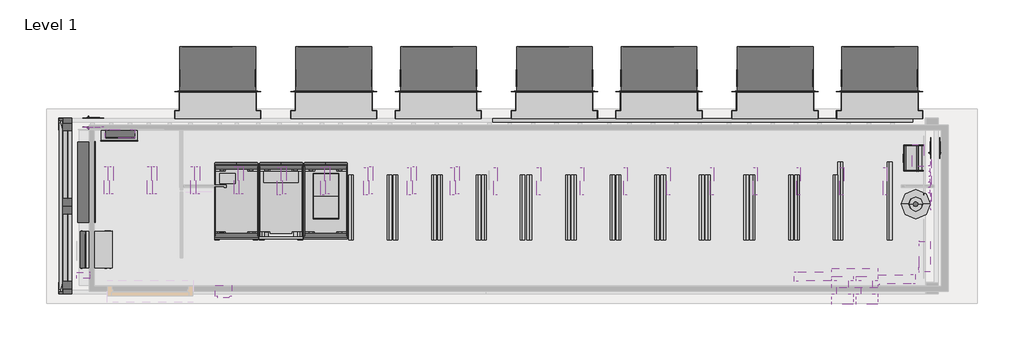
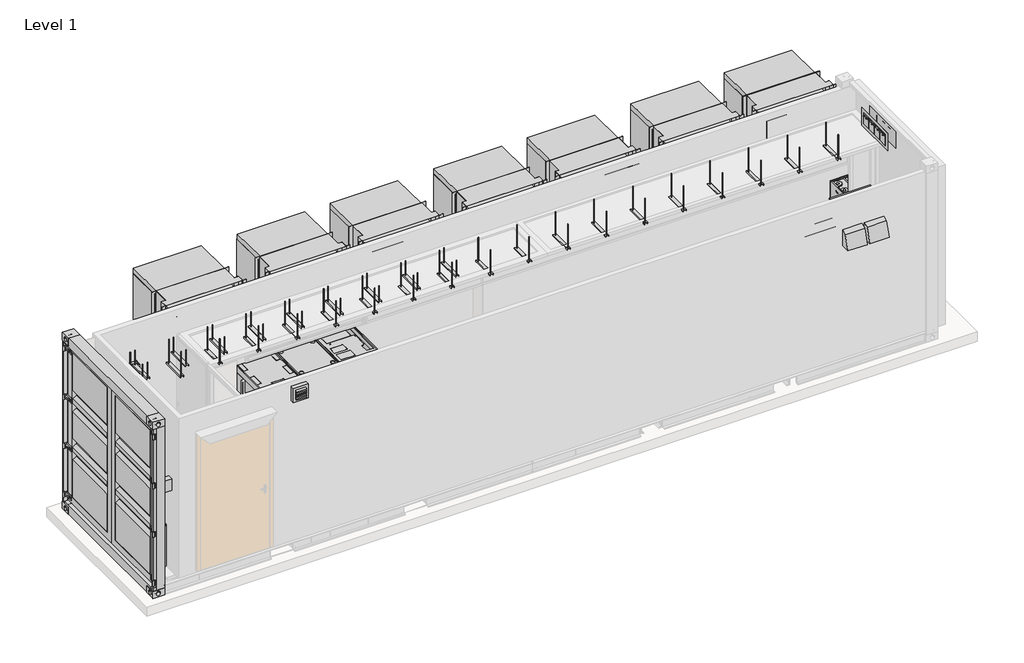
# One storey, part 2 of 2: 45 proxies, 28 cable carrier fittings, 1 alarm, 1 beam.
"""IFC4 building model written with IfcOpenShell, lengths in millimetres."""

from ifc_helpers import new_model, si_unit, frame, origin, place, context, project, spatial, circle_curve, transform, mapped, element, save
from ifc_brep_helpers import plane_surface, cylinder_surface, advanced_brep
from components import cylinder_1_cylinder_1_ec71c972, electrical_equipment_b056a7a1, electrical_equipment_63daee8f, electrical_equipment_d7194751, mechanical_equipment_ff092b0d, electrical_equipment_6561f704, electrical_equipment_92dd933f, electrical_equipment_2ad6ca1a, electrical_equipment_7d681fff, electrical_equipment_a33bc82e, generic_models_3c25a827, generic_models_1ea03f89, mechanical_equipment_c87a87b9, proxy_120v_outlet_120v_outlet_43f5f55e, cp_100_control_panel_77914c75, climate_control_climate_control_e813e11c, climate_control2_climate_control2_4c8c6d90, e2m_access_control_panel_9290570a, fire_alarm_control_panel_67536681, generator_annunciator_panel_e31edde5, i_line_power_distribution_panel_board_enclosure_5f4e2905, rack_mount_base_rack_mount_base_61a671b6, rack_mount_base_750_rack_mount_base_750_28cbcc94, type_1_7145ab67, type_1_5fd10da7, type_1_44b7102c, hanger_cabletray_hanger_cabletray_434e3e47, hanger_cabletray_hanger_cabletray_68d978af

model = new_model("IFC4")

# Units and contexts
model_context = context("Model", 3, world=origin())
ifc_project = project(units=[si_unit("LENGTHUNIT", "METRE", prefix="MILLI")], contexts=[model_context])

# Site, building, storey
site = spatial("IfcSite", under=ifc_project)
building = spatial("IfcBuilding", under=site)
storey = spatial("IfcBuildingStorey", under=building, Name="Level 1", Elevation=0.0)

# Alarm
placement = place(None, origin())
cylinder_1_cylinder_1_shape = cylinder_1_cylinder_1_ec71c972(model_context)
element("IfcAlarm", 1, ObjectType="Cylinder-1 : Cylinder-1", at=placement, inside=storey, context=model_context, shape_type="MappedRepresentation", body=[
    mapped(cylinder_1_cylinder_1_shape, transform((7655.1260176, -1726.7565442, 424.0), x_axis=(1.0, 0.0, 0.0), y_axis=(0.0, 1.0, 0.0), z_axis=(0.0, 0.0, 1.0))),
])

# Beam
element("IfcBeam", 2, ObjectType="M_C-Channel_305x105 : C160x47", at=placement, inside=storey, context=model_context, shape_type="AdvancedBrep", body=[
    advanced_brep(
    [(1785.8997533, -585.7772175, 410.9999915), (1785.8997533, -538.7772175, 410.9999915), (1785.8997533, -551.4772175, 398.2999915), (1785.8997533, -580.7772175, 393.6593274), (1785.8997533, -580.7772175, 268.3406556), (1785.8997533, -551.4772175, 263.6999915), (1785.8997533, -538.7772175, 250.9999915), (1785.8997533, -585.7772175, 250.9999915), (7613.9103088, -585.7772175, 410.9999915), (7613.9103088, -585.7772175, 250.9999915), (7613.9103088, -538.7772175, 250.9999915), (7613.9103088, -551.4772175, 263.6999915), (7613.9103088, -580.7772175, 268.3406556), (7613.9103088, -580.7772175, 393.6593274), (7613.9103088, -551.4772175, 398.2999915), (7613.9103088, -538.7772175, 410.9999915), (5885.9375311, -580.7772175, 268.3406556), (5885.9375311, -580.7772175, 365.9999967), (5525.9103088, -580.7772175, 365.9999967), (5525.9103088, -580.7772175, 268.3406556), (3812.1141924, -580.7772175, 268.3406556), (3812.1141924, -580.7772175, 365.999994), (3445.9104822, -580.7772175, 365.999994), (3445.9104822, -580.7772175, 268.3406556), (3445.9104822, -551.4772175, 263.6999915), (5885.9375311, -551.4772175, 263.6999915), (3812.1141924, -551.4772175, 263.6999915), (5525.9103088, -551.4772175, 263.6999915), (3445.9104822, -538.7772175, 250.9999915), (5885.9375311, -538.7772175, 250.9999915), (3812.1141924, -538.7772175, 250.9999915), (5525.9103088, -538.7772175, 250.9999915), (3445.9104822, -585.7772175, 250.9999915), (5885.9375311, -585.7772175, 250.9999915), (3812.1141924, -585.7772175, 250.9999915), (5525.9103088, -585.7772175, 250.9999915), (3445.9104822, -585.7772175, 365.999994), (3812.1141924, -585.7772175, 365.999994), (5525.9103088, -585.7772175, 365.9999967), (5885.9375311, -585.7772175, 365.9999967)],
    [
        (0, 1),
        (1, 2, circle_curve(frame((1785.8997533, -551.4772175, 410.9999915), z_axis=(-1.0, 0.0, 0.0), x_axis=(0.0, 1.0, 0.0)), 12.7)),
        (2, 3),
        (3, 4),
        (4, 5),
        (5, 6, circle_curve(frame((1785.8997533, -551.4772175, 250.9999915), z_axis=(-1.0, 0.0, 0.0), x_axis=(0.0, 1.0, 0.0)), 12.7)),
        (6, 7),
        (7, 0),
        (8, 9),
        (9, 10),
        (10, 11, circle_curve(frame((7613.9103088, -551.4772175, 250.9999915), z_axis=(1.0, 0.0, 0.0), x_axis=(0.0, 1.0, 0.0)), 12.7)),
        (11, 12),
        (12, 13),
        (13, 14),
        (14, 15, circle_curve(frame((7613.9103088, -551.4772175, 410.9999915), z_axis=(1.0, 0.0, 0.0), x_axis=(0.0, 1.0, 0.0)), 12.7)),
        (15, 8),
        (0, 8),
        (15, 1),
        (14, 2),
        (13, 3),
        (12, 16),
        (16, 17),
        (17, 18),
        (18, 19),
        (19, 20),
        (20, 21),
        (21, 22),
        (22, 23),
        (23, 4),
        (23, 24),
        (24, 5),
        (11, 25),
        (25, 16),
        (26, 20),
        (19, 27),
        (27, 26),
        (24, 28, circle_curve(frame((3445.9104822, -551.4772175, 250.9999915), z_axis=(-1.0, 0.0, 0.0), x_axis=(0.0, 1.0, 0.0)), 12.7)),
        (28, 6),
        (10, 29),
        (29, 25, circle_curve(frame((5885.9375311, -551.4772175, 250.9999915), z_axis=(1.0, 0.0, 0.0), x_axis=(0.0, 1.0, 0.0)), 12.7)),
        (30, 26, circle_curve(frame((3812.1141924, -551.4772175, 250.9999915), z_axis=(1.0, 0.0, 0.0), x_axis=(0.0, 1.0, 0.0)), 12.7)),
        (27, 31, circle_curve(frame((5525.9103088, -551.4772175, 250.9999915), z_axis=(-1.0, 0.0, 0.0), x_axis=(0.0, 1.0, 0.0)), 12.7)),
        (31, 30),
        (28, 32),
        (32, 7),
        (9, 33),
        (33, 29),
        (34, 30),
        (31, 35),
        (35, 34),
        (32, 36),
        (36, 37),
        (37, 34),
        (35, 38),
        (38, 39),
        (39, 33),
        (36, 22),
        (21, 37),
        (38, 18),
        (17, 39),
    ],
    [
        plane_surface(frame((1785.8997533, -564.7772175, 330.9999915), z_axis=(-1.0, 0.0, 0.0), x_axis=(0.0, 0.0, 1.0))),
        plane_surface(frame((7613.9103088, -564.7772175, 330.9999915), z_axis=(1.0, 0.0, 0.0), x_axis=(0.0, 0.0, 1.0))),
        plane_surface(frame((1785.8997533, -585.7772175, 410.9999915), z_axis=(0.0, 0.0, 1.0), x_axis=(1.0, 0.0, 0.0))),
        cylinder_surface(frame((1785.8997533, -551.4772175, 410.9999915), z_axis=(-1.0, 0.0, 0.0), x_axis=(0.0, 1.0, 0.0)), 12.7),
        plane_surface(frame((1785.8997533, -551.4772175, 398.2999915), z_axis=(0.0, 0.15643446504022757, -0.9876883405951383), x_axis=(1.0, 0.0, 0.0))),
        plane_surface(frame((1785.8997533, -580.7772175, 393.6593274), z_axis=(0.0, 1.0, 0.0), x_axis=(1.0, 0.0, 0.0))),
        plane_surface(frame((1785.8997533, -580.7772175, 268.3406556), z_axis=(0.0, 0.1564344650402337, 0.9876883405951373), x_axis=(1.0, 0.0, 0.0))),
        cylinder_surface(frame((1785.8997533, -551.4772175, 250.9999915), z_axis=(-1.0, 0.0, 0.0), x_axis=(0.0, 1.0, 0.0)), 12.7),
        plane_surface(frame((1785.8997533, -538.7772175, 250.9999915), z_axis=(0.0, 0.0, -1.0), x_axis=(1.0, 0.0, 0.0))),
        plane_surface(frame((1785.8997533, -585.7772175, 250.9999915), z_axis=(0.0, -1.0, 0.0), x_axis=(1.0, 0.0, 0.0))),
        plane_surface(frame((3445.9104822, 16483.0727825, 365.999994), z_axis=(0.0, 0.0, -1.0), x_axis=(0.0, -1.0, 0.0))),
        plane_surface(frame((3812.1141924, 16483.0727825, 365.999994), z_axis=(-1.0, 0.0, 0.0), x_axis=(0.0, -1.0, 0.0))),
        plane_surface(frame((3445.9104822, 16483.0727825, 250.9999915), z_axis=(1.0, 0.0, 0.0), x_axis=(0.0, -1.0, 0.0))),
        plane_surface(frame((5525.9103088, 16483.0727825, 365.9999967), z_axis=(0.0, 0.0, -1.0), x_axis=(0.0, -1.0, 0.0))),
        plane_surface(frame((5885.9375311, 16483.0727825, 365.9999967), z_axis=(-1.0, 0.0, 0.0), x_axis=(0.0, -1.0, 0.0))),
        plane_surface(frame((5525.9103088, 16483.0727825, 250.9999915), z_axis=(1.0, 0.0, 0.0), x_axis=(0.0, -1.0, 0.0))),
    ],
    [
        (0, [[1, 2, 3, 4, 5, 6, 7, 8]]),
        (1, [[9, 10, 11, 12, 13, 14, 15, 16]]),
        (2, [[-1, 17, -16, 18]]),
        (3, [[-2, -18, -15, 19]]),
        (4, [[-3, -19, -14, 20]]),
        (5, [[-4, -20, -13, 21, 22, 23, 24, 25, 26, 27, 28, 29]]),
        (6, [[-5, -29, 30, 31]]),
        (6, [[-12, 32, 33, -21]]),
        (6, [[34, -25, 35, 36]]),
        (7, [[-6, -31, 37, 38]]),
        (7, [[-11, 39, 40, -32]]),
        (7, [[41, -36, 42, 43]]),
        (8, [[-7, -38, 44, 45]]),
        (8, [[-10, 46, 47, -39]]),
        (8, [[48, -43, 49, 50]]),
        (9, [[-8, -45, 51, 52, 53, -50, 54, 55, 56, -46, -9, -17]]),
        (10, [[57, -27, 58, -52]]),
        (11, [[-58, -26, -34, -41, -48, -53]]),
        (12, [[-57, -51, -44, -37, -30, -28]]),
        (13, [[59, -23, 60, -55]]),
        (14, [[-60, -22, -33, -40, -47, -56]]),
        (15, [[-59, -54, -49, -42, -35, -24]]),
    ],
),
])

# Proxies
electrical_equipment_shape = electrical_equipment_b056a7a1(model_context)
element("IfcBuildingElementProxy", 3, Name="UPS_Symmetra_PX_100_Schneider_Electric_100kVA_BIM_Model : SY100K100F", ObjectType="UPS_Symmetra_PX_100_Schneider_Electric_100kVA_BIM_Model : SY100K100F", at=placement, inside=storey, context=model_context, shape_type="MappedRepresentation", body=[
    mapped(electrical_equipment_shape, transform((-1143.2991907, -1686.5272175, 428.2), x_axis=(1.0, 0.0, 0.0), y_axis=(0.0, 1.0, 0.0), z_axis=(0.0, 0.0, 1.0))),
])
electrical_equipment_2_shape = electrical_equipment_63daee8f(model_context)
element("IfcBuildingElementProxy", 4, Name="Modular_PDU_100kW_600_480_208V_MBP_w_XFMR_Schneider_Electric_BIM_Model : PDPM100G6F-M 100kVA Modular Power Distribution Unit, Isolation Transformer, 480-208V, 72 Pole, MBP, 1 Subfeed", ObjectType="Modular_PDU_100kW_600_480_208V_MBP_w_XFMR_Schneider_Electric_BIM_Model : PDPM100G6F-M 100kVA Modular Power Distribution Unit, Isolation Transformer, 480-208V, 72 Pole, MBP, 1 Subfeed", at=placement, inside=storey, context=model_context, shape_type="MappedRepresentation", body=[
    mapped(electrical_equipment_2_shape, transform((-525.3595519, -1686.4772415, 428.2), x_axis=(1.0, 0.0, 0.0), y_axis=(0.0, 1.0, 0.0), z_axis=(0.0, 0.0, 1.0))),
])
electrical_equipment_3_shape = electrical_equipment_d7194751(model_context)
element("IfcBuildingElementProxy", 5, Name="Symmetra_PX_Battery_96_100_160kW_Schneider_Electric_BIM_Model : SYCFXR9-9 - Symmetra PX Battery frame with 9 Battery Modules", ObjectType="Symmetra_PX_Battery_96_100_160kW_Schneider_Electric_BIM_Model : SYCFXR9-9 - Symmetra PX Battery frame with 9 Battery Modules", at=placement, inside=storey, context=model_context, shape_type="MappedRepresentation", body=[
    mapped(electrical_equipment_3_shape, transform((-1761.3658592, -1686.5272172, 428.2), x_axis=(1.0, 0.0, 0.0), y_axis=(0.0, 1.0, 0.0), z_axis=(0.0, 0.0, 1.0))),
])
mechanical_equipment_shape = mechanical_equipment_ff092b0d(model_context)
element("IfcBuildingElementProxy", 6, Name="Energy_Recovery_Ventilator_ERVH100SE : ERVH100SE", ObjectType="Energy_Recovery_Ventilator_ERVH100SE : ERVH100SE", at=placement, inside=storey, context=model_context, shape_type="MappedRepresentation", body=[
    mapped(mechanical_equipment_shape, transform((6808.8891977, -2887.7772175, 2400.0), x_axis=(1.0, 0.0, 0.0), y_axis=(0.0, 1.0, 0.0), z_axis=(0.0, 0.0, 1.0))),
])
electrical_equipment_4_shape = electrical_equipment_6561f704(model_context)
electrical_equipment_5_shape = electrical_equipment_92dd933f(model_context)
electrical_equipment_6_shape = electrical_equipment_2ad6ca1a(model_context)
element("IfcBuildingElementProxy", 7, Name="TRF2 - 480V-208Vor 120V_ Step_down_transformer_BIM_Model : TRF2 - 480V-208Vor 120V_ Step_down_transformer_BIM_Model", ObjectType="TRF2 - 480V-208Vor 120V_ Step_down_transformer_BIM_Model : TRF2 - 480V-208Vor 120V_ Step_down_transformer_BIM_Model", at=placement, inside=storey, context=model_context, shape_type="MappedRepresentation", body=[
    mapped(electrical_equipment_4_shape, transform((-3704.6560721, -2358.2836187, 424.0), x_axis=(-0.0025604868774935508, 0.9999967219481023, 0.0), y_axis=(-0.9999967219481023, -0.0025604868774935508, 0.0), z_axis=(0.0, 0.0, 1.0))),
    mapped(electrical_equipment_5_shape, transform((-3704.6560721, -2358.2836187, 424.0), x_axis=(-0.0025604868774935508, 0.9999967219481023, 0.0), y_axis=(-0.9999967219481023, -0.0025604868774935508, 0.0), z_axis=(0.0, 0.0, 1.0))),
    mapped(electrical_equipment_6_shape, transform((-3704.6560721, -2358.2836187, 424.0), x_axis=(-0.0025604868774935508, 0.9999967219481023, 0.0), y_axis=(-0.9999967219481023, -0.0025604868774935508, 0.0), z_axis=(0.0, 0.0, 1.0))),
])
electrical_equipment_7_shape = electrical_equipment_7d681fff(model_context)
element("IfcBuildingElementProxy", 8, Name="Distribution_Socket_4_rotated : Distribution_Socket_4_rotated", ObjectType="Distribution_Socket_4_rotated : Distribution_Socket_4_rotated", at=placement, inside=storey, context=model_context, shape_type="MappedRepresentation", body=[
    mapped(electrical_equipment_7_shape, transform((7927.8891996, -1455.6088798, 2736.1843301), x_axis=(0.0, 1.0, 0.0), y_axis=(-1.0, 0.0, 0.0), z_axis=(0.0, 0.0, 1.0))),
])
electrical_equipment_8_shape = electrical_equipment_a33bc82e(model_context)
element("IfcBuildingElementProxy", 9, Name="Distribution_Socket_Single_rotated : Distribution_Socket_Single_rotated", ObjectType="Distribution_Socket_Single_rotated : Distribution_Socket_Single_rotated", at=placement, inside=storey, context=model_context, shape_type="MappedRepresentation", body=[
    mapped(electrical_equipment_8_shape, transform((7927.8891996, -946.096377, 586.2875), x_axis=(0.0, 1.0, 0.0), y_axis=(-1.0, 0.0, 0.0), z_axis=(0.0, 0.0, 1.0))),
])
element("IfcBuildingElementProxy", 10, Name="Distribution_Socket_Single_rotated : Distribution_Socket_Single_rotated", ObjectType="Distribution_Socket_Single_rotated : Distribution_Socket_Single_rotated", at=placement, inside=storey, context=model_context, shape_type="MappedRepresentation", body=[
    mapped(electrical_equipment_8_shape, transform((-3745.3838032, -594.7772175, 816.9999942), x_axis=(1.0, 0.0, 0.0), y_axis=(0.0, 1.0, 0.0), z_axis=(0.0, 0.0, 1.0))),
])
element("IfcBuildingElementProxy", 11, Name="Distribution_Socket_Single_rotated : Distribution_Socket_Single_rotated", ObjectType="Distribution_Socket_Single_rotated : Distribution_Socket_Single_rotated", at=placement, inside=storey, context=model_context, shape_type="MappedRepresentation", body=[
    mapped(electrical_equipment_8_shape, transform((-3745.3838032, -594.7772175, 1072.7452567), x_axis=(1.0, 0.0, 0.0), y_axis=(0.0, 1.0, 0.0), z_axis=(0.0, 0.0, 1.0))),
])
element("IfcBuildingElementProxy", 12, Name="Distribution_Socket_Single_rotated : Distribution_Socket_Single_rotated", ObjectType="Distribution_Socket_Single_rotated : Distribution_Socket_Single_rotated", at=placement, inside=storey, context=model_context, shape_type="MappedRepresentation", body=[
    mapped(electrical_equipment_8_shape, transform((-3745.3838032, -594.7772175, 1332.7452567), x_axis=(1.0, 0.0, 0.0), y_axis=(0.0, 1.0, 0.0), z_axis=(0.0, 0.0, 1.0))),
])
element("IfcBuildingElementProxy", 13, Name="Distribution_Socket_Single_rotated : Distribution_Socket_Single_rotated", ObjectType="Distribution_Socket_Single_rotated : Distribution_Socket_Single_rotated", at=placement, inside=storey, context=model_context, shape_type="MappedRepresentation", body=[
    mapped(electrical_equipment_8_shape, transform((-3745.3838032, -594.7772175, 1592.7452567), x_axis=(1.0, 0.0, 0.0), y_axis=(0.0, 1.0, 0.0), z_axis=(0.0, 0.0, 1.0))),
])
generic_models_shape = generic_models_3c25a827(model_context)
generic_models_2_shape = generic_models_1ea03f89(model_context)
element("IfcBuildingElementProxy", 14, Name="Left_Wall_Container_Config-6 : Left_Wall_Container_Config-6", ObjectType="Left_Wall_Container_Config-6 : Left_Wall_Container_Config-6", at=placement, inside=storey, context=model_context, shape_type="MappedRepresentation", body=[
    mapped(generic_models_shape, transform((-4216.9160547, -1755.2772175, 250.9999915), x_axis=(0.0, -0.9999999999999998, 0.0), y_axis=(0.9999999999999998, 0.0, 0.0), z_axis=(0.0, 0.0, 1.0))),
    mapped(generic_models_2_shape, transform((-4216.9160547, -1755.2772175, 250.9999915), x_axis=(0.0, -0.9999999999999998, 0.0), y_axis=(0.9999999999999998, 0.0, 0.0), z_axis=(0.0, 0.0, 1.0))),
])
mechanical_equipment_2_shape = mechanical_equipment_c87a87b9(model_context)
element("IfcBuildingElementProxy", 15, Name="Climate_Control_acce : Climate_Control_acce", ObjectType="Climate_Control_acce : Climate_Control_acce", at=placement, inside=storey, context=model_context, shape_type="MappedRepresentation", body=[
    mapped(mechanical_equipment_2_shape, transform((7688.1365732, -1054.7565442, 2162.5839185), x_axis=(1.0, 0.0, 0.0), y_axis=(0.0, 1.0, 0.0), z_axis=(0.0, 0.0, 1.0))),
])
proxy_120v_outlet_120v_outlet_shape = proxy_120v_outlet_120v_outlet_43f5f55e(model_context)
element("IfcBuildingElementProxy", 16, Name="120V Outlet : 120V Outlet", ObjectType="120V Outlet : 120V Outlet", at=placement, inside=storey, context=model_context, shape_type="MappedRepresentation", body=[
    mapped(proxy_120v_outlet_120v_outlet_shape, transform((-3974.1108107, -2716.2651504, -132.8211921), x_axis=(0.0, -1.0, 0.0), y_axis=(1.0, 0.0, 0.0), z_axis=(0.0, 0.0, 1.0))),
])
cp_100_control_panel_shape = cp_100_control_panel_77914c75(model_context)
element("IfcBuildingElementProxy", 17, Name="CP-100_Control_Panel_Wallmount_BIM_Model_Config6 : CP-100 Control panel", ObjectType="CP-100_Control_Panel_Wallmount_BIM_Model_Config6 : CP-100 Control panel", at=placement, inside=storey, context=model_context, shape_type="MappedRepresentation", body=[
    mapped(cp_100_control_panel_shape, transform((-3272.8887252, -690.78503, 471.3953363), x_axis=(-1.0, 0.0, 0.0), y_axis=(0.0, -1.0, 0.0), z_axis=(0.0, 0.0, 1.0))),
])
climate_control_climate_control_shape = climate_control_climate_control_e813e11c(model_context)
element("IfcBuildingElementProxy", 18, Name="Climate Control : Climate Control", ObjectType="Climate Control : Climate Control", at=placement, inside=storey, context=model_context, shape_type="MappedRepresentation", body=[
    mapped(climate_control_climate_control_shape, transform((6828.1036349, -2897.3355591, 2300.0), x_axis=(1.0000000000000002, 0.0, 0.0), y_axis=(0.0, 1.0000000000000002, 0.0), z_axis=(0.0, 0.0, 1.0))),
])
element("IfcBuildingElementProxy", 19, Name="Climate Control : Climate Control", ObjectType="Climate Control : Climate Control", at=placement, inside=storey, context=model_context, shape_type="MappedRepresentation", body=[
    mapped(climate_control_climate_control_shape, transform((6489.8016977, -2897.3355591, 2300.0), x_axis=(1.0000000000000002, 0.0, 0.0), y_axis=(0.0, 1.0000000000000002, 0.0), z_axis=(0.0, 0.0, 1.0))),
])
climate_control2_climate_control2_shape = climate_control2_climate_control2_4c8c6d90(model_context)
element("IfcBuildingElementProxy", 20, Name="Climate_Control2 : Climate_Control2", ObjectType="Climate_Control2 : Climate_Control2", at=placement, inside=storey, context=model_context, shape_type="MappedRepresentation", body=[
    mapped(climate_control2_climate_control2_shape, transform((-1942.6108023, -2930.2772175, 2730.25), x_axis=(1.0, 0.0, 0.0), y_axis=(0.0, 1.0, 0.0), z_axis=(0.0, 0.0, 1.0))),
])
e2m_access_control_panel_shape = e2m_access_control_panel_9290570a(model_context)
element("IfcBuildingElementProxy", 21, Name="E2M_Access_Control_Panel_config6 : E2M-Access Control Panel", ObjectType="E2M_Access_Control_Panel_config6 : E2M-Access Control Panel", at=placement, inside=storey, context=model_context, shape_type="MappedRepresentation", body=[
    mapped(e2m_access_control_panel_shape, transform((-3374.4334393, -690.78503, 765.718308), x_axis=(-1.0, 0.0, 0.0), y_axis=(0.0, -1.0, 0.0), z_axis=(0.0, 0.0, 1.0))),
])
fire_alarm_control_panel_shape = fire_alarm_control_panel_67536681(model_context)
element("IfcBuildingElementProxy", 22, Name="Fire_Alarm_Control_Panel_Wallmount_BIM_Model : Fire Alarm Control Panel", ObjectType="Fire_Alarm_Control_Panel_Wallmount_BIM_Model : Fire Alarm Control Panel", at=placement, inside=storey, context=model_context, shape_type="MappedRepresentation", body=[
    mapped(fire_alarm_control_panel_shape, transform((7905.3891987, -2580.7565442, 1400.0), x_axis=(0.0, 1.0, 0.0), y_axis=(-1.0, 0.0, 0.0), z_axis=(0.0, 0.0, 1.0))),
])
generator_annunciator_panel_shape = generator_annunciator_panel_e31edde5(model_context)
element("IfcBuildingElementProxy", 23, Name="Generator_Annunciator_Panel_Wallmount_BIM_Model_Config6 : Generator Annunciator Panel", ObjectType="Generator_Annunciator_Panel_Wallmount_BIM_Model_Config6 : Generator Annunciator Panel", at=placement, inside=storey, context=model_context, shape_type="MappedRepresentation", body=[
    mapped(generator_annunciator_panel_shape, transform((-3247.8887252, -665.78503, 667.5538174), x_axis=(-1.0, 0.0, 0.0), y_axis=(0.0, -1.0, 0.0), z_axis=(0.0, 0.0, 1.0))),
])
i_line_power_distribution_panel_board_enclosure_shape = i_line_power_distribution_panel_board_enclosure_5f4e2905(model_context)
element("IfcBuildingElementProxy", 24, Name="I-Line_Power_Distribution_Panel_Board_Enclosure_MDP-100_Config10_BIM_Model : I-Line Power Distribution Panel Board Enclosure", ObjectType="I-Line_Power_Distribution_Panel_Board_Enclosure_MDP-100_Config10_BIM_Model : I-Line Power Distribution Panel Board Enclosure", at=placement, inside=storey, context=model_context, shape_type="MappedRepresentation", body=[
    mapped(i_line_power_distribution_panel_board_enclosure_shape, transform((-3841.6108107, -1419.9285403, 424.0), x_axis=(0.0, 1.0000000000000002, 0.0), y_axis=(-1.0000000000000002, 0.0, 0.0), z_axis=(0.0, 0.0, 1.0))),
])
rack_mount_base_rack_mount_base_shape = rack_mount_base_rack_mount_base_61a671b6(model_context)
element("IfcBuildingElementProxy", 25, Name="Rack_Mount_Base : Rack_Mount_Base", ObjectType="Rack_Mount_Base : Rack_Mount_Base", at=placement, inside=storey, context=model_context, shape_type="MappedRepresentation", body=[
    mapped(rack_mount_base_rack_mount_base_shape, transform((-2062.7388298, -1321.5705387, 424.0), x_axis=(1.0, 0.0, 0.0), y_axis=(0.0, 1.0, 0.0), z_axis=(0.0, 0.0, 1.0))),
])
element("IfcBuildingElementProxy", 26, Name="Rack_Mount_Base : Rack_Mount_Base", ObjectType="Rack_Mount_Base : Rack_Mount_Base", at=placement, inside=storey, context=model_context, shape_type="MappedRepresentation", body=[
    mapped(rack_mount_base_rack_mount_base_shape, transform((-1443.2991907, -1320.5272175, 424.0), x_axis=(1.0, 0.0, 0.0), y_axis=(0.0, 1.0, 0.0), z_axis=(0.0, 0.0, 1.0))),
])
element("IfcBuildingElementProxy", 27, Name="Rack_Mount_Base : Rack_Mount_Base", ObjectType="Rack_Mount_Base : Rack_Mount_Base", at=placement, inside=storey, context=model_context, shape_type="MappedRepresentation", body=[
    mapped(rack_mount_base_rack_mount_base_shape, transform((-207.1658574, -1321.4772419, 424.0), x_axis=(1.0, 0.0, 0.0), y_axis=(0.0, 1.0, 0.0), z_axis=(0.0, 0.0, 1.0))),
])
element("IfcBuildingElementProxy", 28, Name="Rack_Mount_Base : Rack_Mount_Base", ObjectType="Rack_Mount_Base : Rack_Mount_Base", at=placement, inside=storey, context=model_context, shape_type="MappedRepresentation", body=[
    mapped(rack_mount_base_rack_mount_base_shape, transform((409.4008107, -1321.5272175, 424.0), x_axis=(1.0, 0.0, 0.0), y_axis=(0.0, 1.0, 0.0), z_axis=(0.0, 0.0, 1.0))),
])
element("IfcBuildingElementProxy", 29, Name="Rack_Mount_Base : Rack_Mount_Base", ObjectType="Rack_Mount_Base : Rack_Mount_Base", at=placement, inside=storey, context=model_context, shape_type="MappedRepresentation", body=[
    mapped(rack_mount_base_rack_mount_base_shape, transform((1028.878587, -1321.5272175, 424.0), x_axis=(1.0, 0.0, 0.0), y_axis=(0.0, 1.0, 0.0), z_axis=(0.0, 0.0, 1.0))),
])
element("IfcBuildingElementProxy", 30, Name="Rack_Mount_Base : Rack_Mount_Base", ObjectType="Rack_Mount_Base : Rack_Mount_Base", at=placement, inside=storey, context=model_context, shape_type="MappedRepresentation", body=[
    mapped(rack_mount_base_rack_mount_base_shape, transform((1636.6675544, -1320.3737201, 424.0), x_axis=(1.0, 0.0, 0.0), y_axis=(0.0, 1.0, 0.0), z_axis=(0.0, 0.0, 1.0))),
])
element("IfcBuildingElementProxy", 31, Name="Rack_Mount_Base : Rack_Mount_Base", ObjectType="Rack_Mount_Base : Rack_Mount_Base", at=placement, inside=storey, context=model_context, shape_type="MappedRepresentation", body=[
    mapped(rack_mount_base_rack_mount_base_shape, transform((2266.3772586, -1321.4772419, 424.0), x_axis=(1.0, 0.0, 0.0), y_axis=(0.0, 1.0, 0.0), z_axis=(0.0, 0.0, 1.0))),
])
element("IfcBuildingElementProxy", 32, Name="Rack_Mount_Base : Rack_Mount_Base", ObjectType="Rack_Mount_Base : Rack_Mount_Base", at=placement, inside=storey, context=model_context, shape_type="MappedRepresentation", body=[
    mapped(rack_mount_base_rack_mount_base_shape, transform((2883.0785885, -1321.4772419, 424.0), x_axis=(1.0, 0.0, 0.0), y_axis=(0.0, 1.0, 0.0), z_axis=(0.0, 0.0, 1.0))),
])
element("IfcBuildingElementProxy", 33, Name="Rack_Mount_Base : Rack_Mount_Base", ObjectType="Rack_Mount_Base : Rack_Mount_Base", at=placement, inside=storey, context=model_context, shape_type="MappedRepresentation", body=[
    mapped(rack_mount_base_rack_mount_base_shape, transform((3502.6452537, -1320.653319, 424.0), x_axis=(1.0, 0.0, 0.0), y_axis=(0.0, 1.0, 0.0), z_axis=(0.0, 0.0, 1.0))),
])
element("IfcBuildingElementProxy", 34, Name="Rack_Mount_Base : Rack_Mount_Base", ObjectType="Rack_Mount_Base : Rack_Mount_Base", at=placement, inside=storey, context=model_context, shape_type="MappedRepresentation", body=[
    mapped(rack_mount_base_rack_mount_base_shape, transform((4122.1230315, -1321.5272175, 424.0), x_axis=(1.0, 0.0, 0.0), y_axis=(0.0, 1.0, 0.0), z_axis=(0.0, 0.0, 1.0))),
])
element("IfcBuildingElementProxy", 35, Name="Rack_Mount_Base : Rack_Mount_Base", ObjectType="Rack_Mount_Base : Rack_Mount_Base", at=placement, inside=storey, context=model_context, shape_type="MappedRepresentation", body=[
    mapped(rack_mount_base_rack_mount_base_shape, transform((4740.1896981, -1321.5272175, 424.0), x_axis=(1.0, 0.0, 0.0), y_axis=(0.0, 1.0, 0.0), z_axis=(0.0, 0.0, 1.0))),
])
element("IfcBuildingElementProxy", 36, Name="Rack_Mount_Base : Rack_Mount_Base", ObjectType="Rack_Mount_Base : Rack_Mount_Base", at=placement, inside=storey, context=model_context, shape_type="MappedRepresentation", body=[
    mapped(rack_mount_base_rack_mount_base_shape, transform((5358.2563648, -1321.5272175, 424.0), x_axis=(1.0, 0.0, 0.0), y_axis=(0.0, 1.0, 0.0), z_axis=(0.0, 0.0, 1.0))),
])
element("IfcBuildingElementProxy", 37, Name="Rack_Mount_Base : Rack_Mount_Base", ObjectType="Rack_Mount_Base : Rack_Mount_Base", at=placement, inside=storey, context=model_context, shape_type="MappedRepresentation", body=[
    mapped(rack_mount_base_rack_mount_base_shape, transform((5977.2050152, -1321.5272175, 424.0), x_axis=(1.0, 0.0, 0.0), y_axis=(0.0, 1.0, 0.0), z_axis=(0.0, 0.0, 1.0))),
])
rack_mount_base_750_rack_mount_base_750_shape = rack_mount_base_750_rack_mount_base_750_28cbcc94(model_context)
element("IfcBuildingElementProxy", 38, Name="Rack_Mount_Base_750 : Rack_Mount_Base_750", ObjectType="Rack_Mount_Base_750 : Rack_Mount_Base_750", at=placement, inside=storey, context=model_context, shape_type="MappedRepresentation", body=[
    mapped(rack_mount_base_750_rack_mount_base_750_shape, transform((6577.2050152, -1142.5272175, 424.0), x_axis=(1.0, 0.0, 0.0), y_axis=(0.0, 1.0, 0.0), z_axis=(0.0, 0.0, 1.0))),
])
type_1_shape = type_1_7145ab67(model_context)
element("IfcBuildingElementProxy", 39, Name="PDB-200 - 208V_OR_120V_Distribution_Panel_Wallmount_BIM_Model : Type 1", ObjectType="PDB-200 - 208V_OR_120V_Distribution_Panel_Wallmount_BIM_Model : Type 1", at=placement, inside=storey, context=model_context, shape_type="MappedRepresentation", body=[
    mapped(type_1_shape, transform((-3999.1108107, -2356.6340868, 196.7822413), x_axis=(0.0, -1.0, 0.0), y_axis=(1.0, 0.0, 0.0), z_axis=(0.0, 0.0, 1.0))),
])
type_1_2_shape = type_1_5fd10da7(model_context)
element("IfcBuildingElementProxy", 40, Name="Uniflair_WMF0661_with_wallmountframe_BIM_Model : Type 1", ObjectType="Uniflair_WMF0661_with_wallmountframe_BIM_Model : Type 1", at=placement, inside=storey, context=model_context, shape_type="MappedRepresentation", body=[
    mapped(type_1_2_shape, transform((5705.797368, -579.5215476, 0.0), x_axis=(1.0, 0.0, 0.0), y_axis=(0.0, 1.0, 0.0), z_axis=(0.0, 0.0, 1.0))),
])
element("IfcBuildingElementProxy", 41, Name="Uniflair_WMF0661_with_wallmountframe_BIM_Model : Type 1", ObjectType="Uniflair_WMF0661_with_wallmountframe_BIM_Model : Type 1", at=placement, inside=storey, context=model_context, shape_type="MappedRepresentation", body=[
    mapped(type_1_2_shape, transform((4096.7986541, -579.5215476, 0.0), x_axis=(1.0, 0.0, 0.0), y_axis=(0.0, 1.0, 0.0), z_axis=(0.0, 0.0, 1.0))),
])
element("IfcBuildingElementProxy", 42, Name="Uniflair_WMF0661_with_wallmountframe_BIM_Model : Type 1", ObjectType="Uniflair_WMF0661_with_wallmountframe_BIM_Model : Type 1", at=placement, inside=storey, context=model_context, shape_type="MappedRepresentation", body=[
    mapped(type_1_2_shape, transform((2646.7999402, -579.5215476, 0.0), x_axis=(1.0, 0.0, 0.0), y_axis=(0.0, 1.0, 0.0), z_axis=(0.0, 0.0, 1.0))),
])
element("IfcBuildingElementProxy", 43, Name="Uniflair_WMF0661_with_wallmountframe_BIM_Model : Type 1", ObjectType="Uniflair_WMF0661_with_wallmountframe_BIM_Model : Type 1", at=placement, inside=storey, context=model_context, shape_type="MappedRepresentation", body=[
    mapped(type_1_2_shape, transform((1037.8012263, -579.5215476, 0.0), x_axis=(1.0, 0.0, 0.0), y_axis=(0.0, 1.0, 0.0), z_axis=(0.0, 0.0, 1.0))),
])
element("IfcBuildingElementProxy", 44, Name="Uniflair_WMF0661_with_wallmountframe_BIM_Model : Type 1", ObjectType="Uniflair_WMF0661_with_wallmountframe_BIM_Model : Type 1", at=placement, inside=storey, context=model_context, shape_type="MappedRepresentation", body=[
    mapped(type_1_2_shape, transform((-412.1974876, -579.5215476, 0.0), x_axis=(1.0, 0.0, 0.0), y_axis=(0.0, 1.0, 0.0), z_axis=(0.0, 0.0, 1.0))),
])
element("IfcBuildingElementProxy", 45, Name="Uniflair_WMF0661_with_wallmountframe_BIM_Model : Type 1", ObjectType="Uniflair_WMF0661_with_wallmountframe_BIM_Model : Type 1", at=placement, inside=storey, context=model_context, shape_type="MappedRepresentation", body=[
    mapped(type_1_2_shape, transform((-2021.1962015, -579.5215476, 0.0), x_axis=(1.0, 0.0, 0.0), y_axis=(0.0, 1.0, 0.0), z_axis=(0.0, 0.0, 1.0))),
])
element("IfcBuildingElementProxy", 46, Name="Uniflair_WMF0661_with_wallmountframe_BIM_Model : Type 1", ObjectType="Uniflair_WMF0661_with_wallmountframe_BIM_Model : Type 1", at=placement, inside=storey, context=model_context, shape_type="MappedRepresentation", body=[
    mapped(type_1_2_shape, transform((7155.3891977, -579.5215476, 0.0), x_axis=(1.0, 0.0, 0.0), y_axis=(0.0, 1.0, 0.0), z_axis=(0.0, 0.0, 1.0))),
])
type_1_3_shape = type_1_44b7102c(model_context)
element("IfcBuildingElementProxy", 47, Name="UE001 - Carel_Humidifier_Wallmount_BIM_Model : Type 1", ObjectType="UE001 - Carel_Humidifier_Wallmount_BIM_Model : Type 1", at=placement, inside=storey, context=model_context, shape_type="MappedRepresentation", body=[
    mapped(type_1_3_shape, transform((7768.6365732, -1086.096377, 646.2875), x_axis=(0.0, 1.0, 0.0), y_axis=(-1.0, 0.0, 0.0), z_axis=(0.0, 0.0, 1.0))),
])

# Cable carrier fittings
hanger_cabletray_hanger_cabletray_shape = hanger_cabletray_hanger_cabletray_434e3e47(model_context)
element("IfcCableCarrierFitting", 48, ObjectType="Hanger_CableTray : Hanger_CableTray", at=placement, inside=storey, context=model_context, shape_type="MappedRepresentation", body=[
    mapped(hanger_cabletray_hanger_cabletray_shape, transform((-3494.5012088, -1232.2772175, 2737.0), x_axis=(0.0, 1.0, 0.0), y_axis=(-1.0, 0.0, 0.0), z_axis=(0.0, 0.0, 1.0))),
])
element("IfcCableCarrierFitting", 49, ObjectType="Hanger_CableTray : Hanger_CableTray", at=placement, inside=storey, context=model_context, shape_type="MappedRepresentation", body=[
    mapped(hanger_cabletray_hanger_cabletray_shape, transform((-2894.5012088, -1232.2772175, 2737.0), x_axis=(0.0, 1.0, 0.0), y_axis=(-1.0, 0.0, 0.0), z_axis=(0.0, 0.0, 1.0))),
])
element("IfcCableCarrierFitting", 50, ObjectType="Hanger_CableTray : Hanger_CableTray", at=placement, inside=storey, context=model_context, shape_type="MappedRepresentation", body=[
    mapped(hanger_cabletray_hanger_cabletray_shape, transform((-2294.5012088, -1232.2772175, 2737.0), x_axis=(0.0, 1.0, 0.0), y_axis=(-1.0, 0.0, 0.0), z_axis=(0.0, 0.0, 1.0))),
])
element("IfcCableCarrierFitting", 51, ObjectType="Hanger_CableTray : Hanger_CableTray", at=placement, inside=storey, context=model_context, shape_type="MappedRepresentation", body=[
    mapped(hanger_cabletray_hanger_cabletray_shape, transform((-1694.5012088, -1232.2772175, 2737.0), x_axis=(0.0, 1.0, 0.0), y_axis=(-1.0, 0.0, 0.0), z_axis=(0.0, 0.0, 1.0))),
])
element("IfcCableCarrierFitting", 52, ObjectType="Hanger_CableTray : Hanger_CableTray", at=placement, inside=storey, context=model_context, shape_type="MappedRepresentation", body=[
    mapped(hanger_cabletray_hanger_cabletray_shape, transform((-1094.5012088, -1232.2772175, 2737.0), x_axis=(0.0, 1.0, 0.0), y_axis=(-1.0, 0.0, 0.0), z_axis=(0.0, 0.0, 1.0))),
])
element("IfcCableCarrierFitting", 53, ObjectType="Hanger_CableTray : Hanger_CableTray", at=placement, inside=storey, context=model_context, shape_type="MappedRepresentation", body=[
    mapped(hanger_cabletray_hanger_cabletray_shape, transform((-494.5012088, -1232.2772175, 2737.0), x_axis=(0.0, 1.0, 0.0), y_axis=(-1.0, 0.0, 0.0), z_axis=(0.0, 0.0, 1.0))),
])
element("IfcCableCarrierFitting", 54, ObjectType="Hanger_CableTray : Hanger_CableTray", at=placement, inside=storey, context=model_context, shape_type="MappedRepresentation", body=[
    mapped(hanger_cabletray_hanger_cabletray_shape, transform((105.4987912, -1232.2772175, 2737.0), x_axis=(0.0, 1.0, 0.0), y_axis=(-1.0, 0.0, 0.0), z_axis=(0.0, 0.0, 1.0))),
])
element("IfcCableCarrierFitting", 55, ObjectType="Hanger_CableTray : Hanger_CableTray", at=placement, inside=storey, context=model_context, shape_type="MappedRepresentation", body=[
    mapped(hanger_cabletray_hanger_cabletray_shape, transform((705.4987912, -1232.2772175, 2737.0), x_axis=(0.0, 1.0, 0.0), y_axis=(-1.0, 0.0, 0.0), z_axis=(0.0, 0.0, 1.0))),
])
element("IfcCableCarrierFitting", 56, ObjectType="Hanger_CableTray : Hanger_CableTray", at=placement, inside=storey, context=model_context, shape_type="MappedRepresentation", body=[
    mapped(hanger_cabletray_hanger_cabletray_shape, transform((1305.4987912, -1232.2772175, 2737.0), x_axis=(0.0, 1.0, 0.0), y_axis=(-1.0, 0.0, 0.0), z_axis=(0.0, 0.0, 1.0))),
])
hanger_cabletray_hanger_cabletray_2_shape = hanger_cabletray_hanger_cabletray_68d978af(model_context)
element("IfcCableCarrierFitting", 57, ObjectType="Hanger_CableTray : Hanger_CableTray", at=placement, inside=storey, context=model_context, shape_type="MappedRepresentation", body=[
    mapped(hanger_cabletray_hanger_cabletray_2_shape, transform((-3569.5012088, -1232.2772175, 2586.5), x_axis=(0.0, 1.0, 0.0), y_axis=(-1.0, 0.0, 0.0), z_axis=(0.0, 0.0, 1.0))),
])
element("IfcCableCarrierFitting", 58, ObjectType="Hanger_CableTray : Hanger_CableTray", at=placement, inside=storey, context=model_context, shape_type="MappedRepresentation", body=[
    mapped(hanger_cabletray_hanger_cabletray_2_shape, transform((-2969.5012088, -1232.2772175, 2586.5), x_axis=(0.0, 1.0, 0.0), y_axis=(-1.0, 0.0, 0.0), z_axis=(0.0, 0.0, 1.0))),
])
element("IfcCableCarrierFitting", 59, ObjectType="Hanger_CableTray : Hanger_CableTray", at=placement, inside=storey, context=model_context, shape_type="MappedRepresentation", body=[
    mapped(hanger_cabletray_hanger_cabletray_2_shape, transform((-2369.5012088, -1232.2772175, 2586.5), x_axis=(0.0, 1.0, 0.0), y_axis=(-1.0, 0.0, 0.0), z_axis=(0.0, 0.0, 1.0))),
])
element("IfcCableCarrierFitting", 60, ObjectType="Hanger_CableTray : Hanger_CableTray", at=placement, inside=storey, context=model_context, shape_type="MappedRepresentation", body=[
    mapped(hanger_cabletray_hanger_cabletray_2_shape, transform((-1769.5012088, -1232.2772175, 2586.5), x_axis=(0.0, 1.0, 0.0), y_axis=(-1.0, 0.0, 0.0), z_axis=(0.0, 0.0, 1.0))),
])
element("IfcCableCarrierFitting", 61, ObjectType="Hanger_CableTray : Hanger_CableTray", at=placement, inside=storey, context=model_context, shape_type="MappedRepresentation", body=[
    mapped(hanger_cabletray_hanger_cabletray_2_shape, transform((-1169.5012088, -1243.2452169, 2586.5), x_axis=(0.0, 1.0, 0.0), y_axis=(-1.0, 0.0, 0.0), z_axis=(0.0, 0.0, 1.0))),
])
element("IfcCableCarrierFitting", 62, ObjectType="Hanger_CableTray : Hanger_CableTray", at=placement, inside=storey, context=model_context, shape_type="MappedRepresentation", body=[
    mapped(hanger_cabletray_hanger_cabletray_2_shape, transform((-569.5012088, -1243.2452169, 2586.5), x_axis=(0.0, 1.0, 0.0), y_axis=(-1.0, 0.0, 0.0), z_axis=(0.0, 0.0, 1.0))),
])
element("IfcCableCarrierFitting", 63, ObjectType="Hanger_CableTray : Hanger_CableTray", at=placement, inside=storey, context=model_context, shape_type="MappedRepresentation", body=[
    mapped(hanger_cabletray_hanger_cabletray_2_shape, transform((30.4987912, -1243.2452169, 2586.5), x_axis=(0.0, 1.0, 0.0), y_axis=(-1.0, 0.0, 0.0), z_axis=(0.0, 0.0, 1.0))),
])
element("IfcCableCarrierFitting", 64, ObjectType="Hanger_CableTray : Hanger_CableTray", at=placement, inside=storey, context=model_context, shape_type="MappedRepresentation", body=[
    mapped(hanger_cabletray_hanger_cabletray_2_shape, transform((630.4987912, -1243.2452169, 2586.5), x_axis=(0.0, 1.0, 0.0), y_axis=(-1.0, 0.0, 0.0), z_axis=(0.0, 0.0, 1.0))),
])
element("IfcCableCarrierFitting", 65, ObjectType="Hanger_CableTray : Hanger_CableTray", at=placement, inside=storey, context=model_context, shape_type="MappedRepresentation", body=[
    mapped(hanger_cabletray_hanger_cabletray_2_shape, transform((1230.4987912, -1243.2452169, 2586.5), x_axis=(0.0, 1.0, 0.0), y_axis=(-1.0, 0.0, 0.0), z_axis=(0.0, 0.0, 1.0))),
])
element("IfcCableCarrierFitting", 66, ObjectType="Hanger_CableTray : Hanger_CableTray", at=placement, inside=storey, context=model_context, shape_type="MappedRepresentation", body=[
    mapped(hanger_cabletray_hanger_cabletray_2_shape, transform((1830.4987912, -1243.2452169, 2586.5), x_axis=(0.0, 1.0, 0.0), y_axis=(-1.0, 0.0, 0.0), z_axis=(0.0, 0.0, 1.0))),
])
element("IfcCableCarrierFitting", 67, ObjectType="Hanger_CableTray : Hanger_CableTray", at=placement, inside=storey, context=model_context, shape_type="MappedRepresentation", body=[
    mapped(hanger_cabletray_hanger_cabletray_2_shape, transform((2430.4987912, -1243.2452169, 2586.5), x_axis=(0.0, 1.0, 0.0), y_axis=(-1.0, 0.0, 0.0), z_axis=(0.0, 0.0, 1.0))),
])
element("IfcCableCarrierFitting", 68, ObjectType="Hanger_CableTray : Hanger_CableTray", at=placement, inside=storey, context=model_context, shape_type="MappedRepresentation", body=[
    mapped(hanger_cabletray_hanger_cabletray_2_shape, transform((3030.4987912, -1243.2452169, 2586.5), x_axis=(0.0, 1.0, 0.0), y_axis=(-1.0, 0.0, 0.0), z_axis=(0.0, 0.0, 1.0))),
])
element("IfcCableCarrierFitting", 69, ObjectType="Hanger_CableTray : Hanger_CableTray", at=placement, inside=storey, context=model_context, shape_type="MappedRepresentation", body=[
    mapped(hanger_cabletray_hanger_cabletray_2_shape, transform((3630.4987912, -1243.2452169, 2586.5), x_axis=(0.0, 1.0, 0.0), y_axis=(-1.0, 0.0, 0.0), z_axis=(0.0, 0.0, 1.0))),
])
element("IfcCableCarrierFitting", 70, ObjectType="Hanger_CableTray : Hanger_CableTray", at=placement, inside=storey, context=model_context, shape_type="MappedRepresentation", body=[
    mapped(hanger_cabletray_hanger_cabletray_2_shape, transform((4230.4987912, -1243.2452169, 2586.5), x_axis=(0.0, 1.0, 0.0), y_axis=(-1.0, 0.0, 0.0), z_axis=(0.0, 0.0, 1.0))),
])
element("IfcCableCarrierFitting", 71, ObjectType="Hanger_CableTray : Hanger_CableTray", at=placement, inside=storey, context=model_context, shape_type="MappedRepresentation", body=[
    mapped(hanger_cabletray_hanger_cabletray_2_shape, transform((4830.4987912, -1243.2452169, 2586.5), x_axis=(0.0, 1.0, 0.0), y_axis=(-1.0, 0.0, 0.0), z_axis=(0.0, 0.0, 1.0))),
])
element("IfcCableCarrierFitting", 72, ObjectType="Hanger_CableTray : Hanger_CableTray", at=placement, inside=storey, context=model_context, shape_type="MappedRepresentation", body=[
    mapped(hanger_cabletray_hanger_cabletray_2_shape, transform((5430.8130636, -1243.2452169, 2586.5), x_axis=(0.0, 1.0, 0.0), y_axis=(-1.0, 0.0, 0.0), z_axis=(0.0, 0.0, 1.0))),
])
element("IfcCableCarrierFitting", 73, ObjectType="Hanger_CableTray : Hanger_CableTray", at=placement, inside=storey, context=model_context, shape_type="MappedRepresentation", body=[
    mapped(hanger_cabletray_hanger_cabletray_2_shape, transform((6030.8130636, -1243.2452169, 2586.5), x_axis=(0.0, 1.0, 0.0), y_axis=(-1.0, 0.0, 0.0), z_axis=(0.0, 0.0, 1.0))),
])
element("IfcCableCarrierFitting", 74, ObjectType="Hanger_CableTray : Hanger_CableTray", at=placement, inside=storey, context=model_context, shape_type="MappedRepresentation", body=[
    mapped(hanger_cabletray_hanger_cabletray_2_shape, transform((6630.8130636, -1243.2452169, 2586.5), x_axis=(0.0, 1.0, 0.0), y_axis=(-1.0, 0.0, 0.0), z_axis=(0.0, 0.0, 1.0))),
])
element("IfcCableCarrierFitting", 75, ObjectType="Hanger_CableTray : Hanger_CableTray", at=placement, inside=storey, context=model_context, shape_type="MappedRepresentation", body=[
    mapped(hanger_cabletray_hanger_cabletray_2_shape, transform((7230.8130636, -1243.2452169, 2586.5), x_axis=(0.0, 1.0, 0.0), y_axis=(-1.0, 0.0, 0.0), z_axis=(0.0, 0.0, 1.0))),
])

save(model, "model.ifc")
